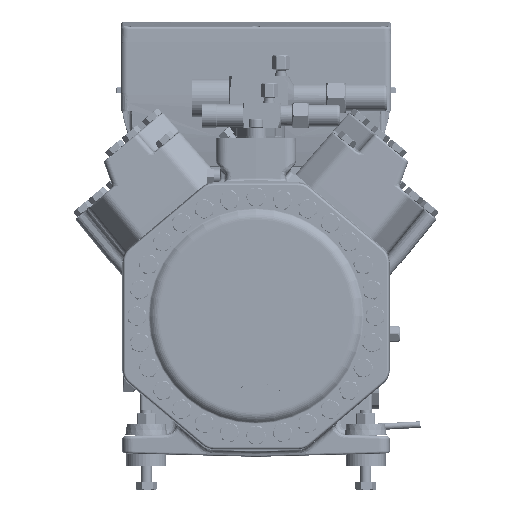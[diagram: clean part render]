
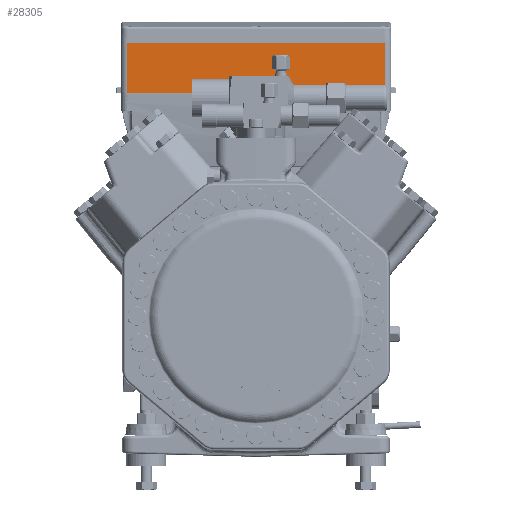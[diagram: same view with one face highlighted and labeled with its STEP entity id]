
A CAD part, front view. The second image highlights one B-rep face of the part: STEP entity #28305.
In plain terms, the highlighted planar face has unit normal (0, -1, 0) as drawn and (1, 0, 0) by its records, which use the part's own axes.
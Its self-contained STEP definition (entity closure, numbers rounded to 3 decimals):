
#17709=LINE('',#196055,#22540);
#17809=LINE('',#196685,#22640);
#17810=LINE('',#196688,#22641);
#17811=LINE('',#196689,#22642);
#22540=VECTOR('',#132772,1.);
#22640=VECTOR('',#133056,1.);
#22641=VECTOR('',#133057,1.);
#22642=VECTOR('',#133058,1.);
#28305=ADVANCED_FACE('',(#36757),#31965,.T.);
#31965=PLANE('',#113536);
#36757=FACE_OUTER_BOUND('',#43663,.T.);
#43663=EDGE_LOOP('',(#67157,#67158,#67159,#67160));
#67157=ORIENTED_EDGE('',*,*,#97846,.F.);
#67158=ORIENTED_EDGE('',*,*,#97847,.T.);
#67159=ORIENTED_EDGE('',*,*,#97650,.T.);
#67160=ORIENTED_EDGE('',*,*,#97848,.T.);
#83775=VERTEX_POINT('',#196054);
#83776=VERTEX_POINT('',#196056);
#83954=VERTEX_POINT('',#196686);
#83955=VERTEX_POINT('',#196687);
#97650=EDGE_CURVE('',#83776,#83775,#17709,.T.);
#97846=EDGE_CURVE('',#83954,#83955,#17809,.T.);
#97847=EDGE_CURVE('',#83954,#83776,#17810,.T.);
#97848=EDGE_CURVE('',#83775,#83955,#17811,.T.);
#113536=AXIS2_PLACEMENT_3D('',#196690,#133059,#133060);
#132772=DIRECTION('',(0.,1.,0.));
#133056=DIRECTION('',(0.,1.,0.));
#133057=DIRECTION('',(0.,0.,-1.));
#133058=DIRECTION('',(0.,0.,1.));
#133059=DIRECTION('',(1.,0.,0.));
#133060=DIRECTION('',(0.,0.,1.));
#196054=CARTESIAN_POINT('',(73.,116.,66.));
#196055=CARTESIAN_POINT('',(73.,0.,66.));
#196056=CARTESIAN_POINT('',(73.,-116.,66.));
#196685=CARTESIAN_POINT('',(73.,0.,111.5));
#196686=CARTESIAN_POINT('',(73.,-116.,111.5));
#196687=CARTESIAN_POINT('',(73.,116.,111.5));
#196688=CARTESIAN_POINT('',(73.,-116.,114.));
#196689=CARTESIAN_POINT('',(73.,116.,114.));
#196690=CARTESIAN_POINT('',(73.,0.,114.));
